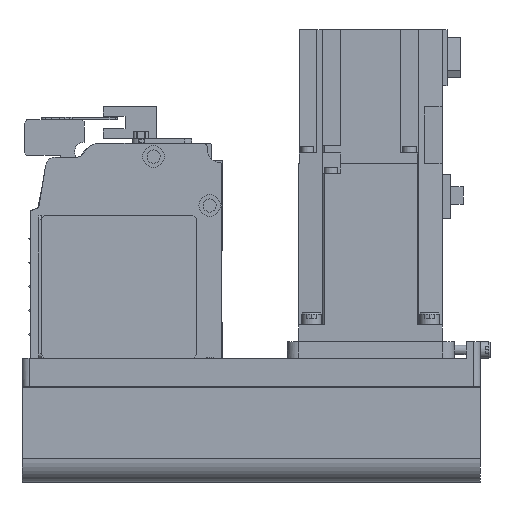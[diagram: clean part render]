
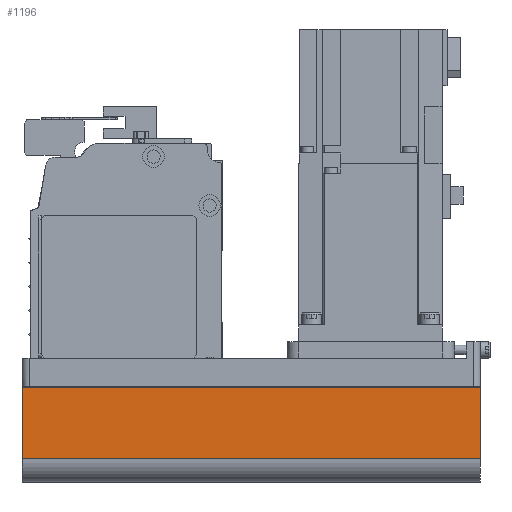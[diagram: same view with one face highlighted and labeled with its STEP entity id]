
A CAD part, left-side view. The second image highlights one B-rep face of the part: STEP entity #1196.
In plain terms, the highlighted planar face has unit normal (-1, 0, 0) as drawn and (0, 1, 0) by its records, which use the part's own axes.
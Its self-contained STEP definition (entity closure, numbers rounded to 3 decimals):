
#1196 = ADVANCED_FACE( '', ( #2914 ), #2915, .T. );
#2914 = FACE_OUTER_BOUND( '', #5330, .T. );
#2915 = PLANE( '', #5331 );
#5330 = EDGE_LOOP( '', ( #8535, #8536, #8537, #8538 ) );
#5331 = AXIS2_PLACEMENT_3D( '', #8539, #8540, #8541 );
#8535 = ORIENTED_EDGE( '', *, *, #14439, .F. );
#8536 = ORIENTED_EDGE( '', *, *, #14440, .F. );
#8537 = ORIENTED_EDGE( '', *, *, #14441, .T. );
#8538 = ORIENTED_EDGE( '', *, *, #14442, .T. );
#8539 = CARTESIAN_POINT( '', ( -192., 40., -42. ) );
#8540 = DIRECTION( '', ( 0., 1., 0. ) );
#8541 = DIRECTION( '', ( 0., 0., 1. ) );
#14439 = EDGE_CURVE( '', #17489, #17490, #17491, .T. );
#14440 = EDGE_CURVE( '', #17492, #17489, #17493, .T. );
#14441 = EDGE_CURVE( '', #17492, #17494, #17495, .T. );
#14442 = EDGE_CURVE( '', #17494, #17490, #17496, .T. );
#17489 = VERTEX_POINT( '', #21603 );
#17490 = VERTEX_POINT( '', #21604 );
#17491 = LINE( '', #21605, #21606 );
#17492 = VERTEX_POINT( '', #21607 );
#17493 = LINE( '', #21608, #21609 );
#17494 = VERTEX_POINT( '', #21610 );
#17495 = LINE( '', #21611, #21612 );
#17496 = LINE( '', #21613, #21614 );
#21603 = CARTESIAN_POINT( '', ( 0., 40., -42. ) );
#21604 = CARTESIAN_POINT( '', ( 0., 40., -12.1 ) );
#21605 = CARTESIAN_POINT( '', ( 0., 40., -42. ) );
#21606 = VECTOR( '', #25754, 1000. );
#21607 = CARTESIAN_POINT( '', ( -192., 40., -42. ) );
#21608 = CARTESIAN_POINT( '', ( -192., 40., -42. ) );
#21609 = VECTOR( '', #25755, 1000. );
#21610 = CARTESIAN_POINT( '', ( -192., 40., -12.1 ) );
#21611 = CARTESIAN_POINT( '', ( -192., 40., -42. ) );
#21612 = VECTOR( '', #25756, 1000. );
#21613 = CARTESIAN_POINT( '', ( -192., 40., -12.1 ) );
#21614 = VECTOR( '', #25757, 1000. );
#25754 = DIRECTION( '', ( 0., 0., 1. ) );
#25755 = DIRECTION( '', ( 1., 0., 0. ) );
#25756 = DIRECTION( '', ( 0., 0., 1. ) );
#25757 = DIRECTION( '', ( 1., 0., 0. ) );
